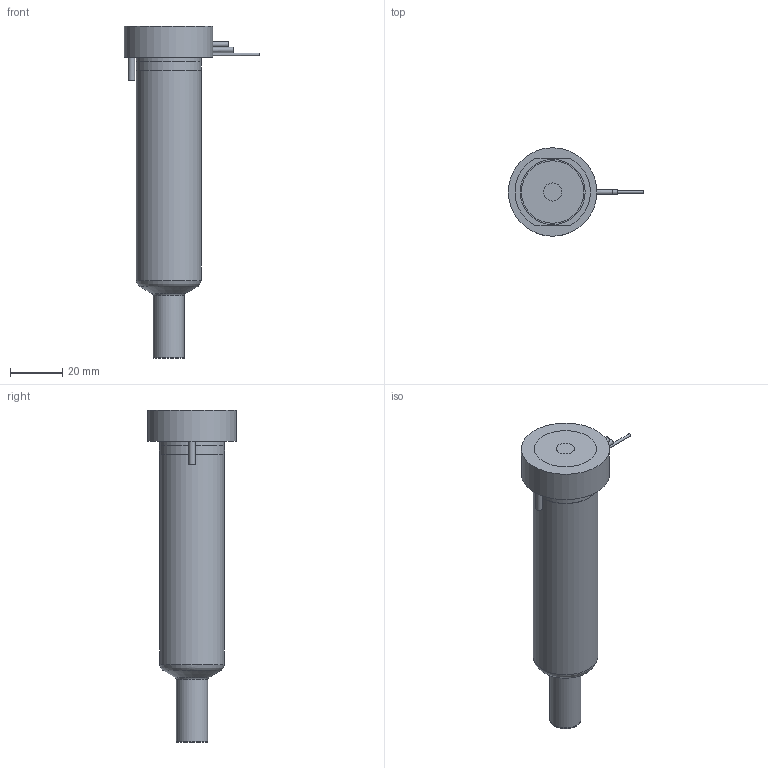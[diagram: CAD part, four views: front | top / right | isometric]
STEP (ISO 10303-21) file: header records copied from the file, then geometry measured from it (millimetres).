
FILE_DESCRIPTION(/* description */ (''),/* implementation_level */ '2;1');
FILE_NAME(/* name */ 'MXYCN16095P7U_250C_a',/* time_stamp */ '2016-02-29T15:48:08+13:00',/* author */ (''),/* organization */ (''),/* preprocessor_version */ 'ST-DEVELOPER v9',/* originating_system */ 'UGS - NX 4.0',/* authorisation */ '');
FILE_SCHEMA (('CONFIG_CONTROL_DESIGN'));
Length unit declared in the file: millimetre
Products named in the file (1): mattB1369you
Bounding box: 51.95 x 34 x 127.6 mm (x, y, z)
Volume: 96568.4 mm3; surface area: 21130.8 mm2
Topology: 2 solids, 2 shells, 71 faces, 156 edges, 102 vertices
Faces by surface type: plane 31, cylinder 26, torus 7, cone 5, bspline 1, sphere 1
Full cylindrical faces by diameter (mm): 1 x2, 1.4 x1, 2 x2, 2.5 x1, 5 x1, 7 x1, 11.61 x1, 11.995 x2, 14.8 x1, 20.8 x1, 24.9 x1, 25 x2, 34 x1
Entity records: 2121 total; most frequent: CARTESIAN_POINT 614, DIRECTION 314, ORIENTED_EDGE 234, AXIS2_PLACEMENT_3D 141, EDGE_CURVE 117, EDGE_LOOP 114, VERTEX_POINT 91, ADVANCED_FACE 71
